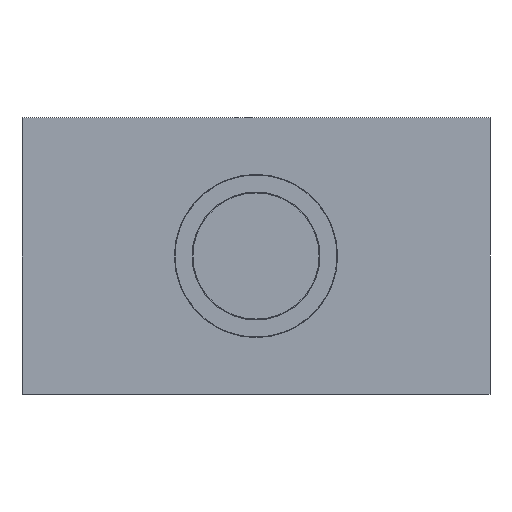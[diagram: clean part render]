
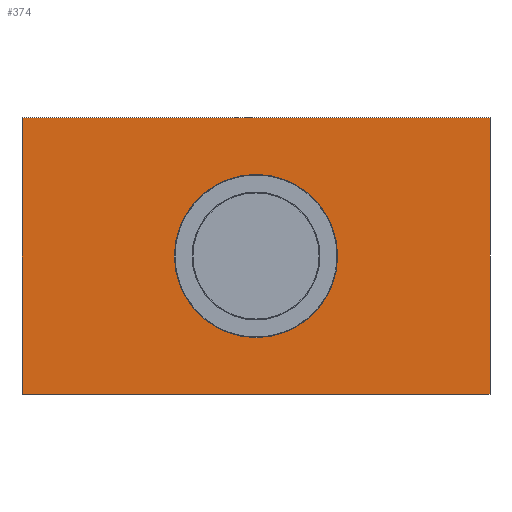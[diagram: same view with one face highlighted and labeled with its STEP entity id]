
A CAD part, front view. The second image highlights one B-rep face of the part: STEP entity #374.
In plain terms, the highlighted free-form (B-spline) face has degree [1, 1] with [2, 2] control points.
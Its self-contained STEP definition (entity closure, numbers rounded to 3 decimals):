
#374=ADVANCED_FACE('',(#952,#953),#954,.T.);
#668=VERTEX_POINT('',#1250);
#672=VERTEX_POINT('',#1254);
#676=EDGE_CURVE('',#672,#668,#1258,.T.);
#678=EDGE_CURVE('',#668,#672,#1260,.T.);
#952=FACE_OUTER_BOUND('',#1904,.T.);
#953=FACE_BOUND('',#1905,.T.);
#954=B_SPLINE_SURFACE_WITH_KNOTS('',1,1,((#1906,#1907),(#1908,#1909)),.UNSPECIFIED.,.F.,.F.,.F.,(2,2),(2,2),(0.002,0.998),(0.004,0.996),.UNSPECIFIED.);
#1250=CARTESIAN_POINT('',(38.35,-1.,0.));
#1254=CARTESIAN_POINT('',(-38.35,-1.,0.));
#1258=CIRCLE('',#2399,38.35);
#1260=CIRCLE('',#2402,38.35);
#1904=EDGE_LOOP('',(#2836,#2837,#2838,#2839));
#1905=EDGE_LOOP('',(#2840,#2841));
#1906=CARTESIAN_POINT('',(-110.002,-1.,-65.001));
#1907=CARTESIAN_POINT('',(-110.002,-1.,65.001));
#1908=CARTESIAN_POINT('',(110.002,-1.,-65.001));
#1909=CARTESIAN_POINT('',(110.002,-1.,65.001));
#2399=AXIS2_PLACEMENT_3D('',#2952,#2953,#2954);
#2402=AXIS2_PLACEMENT_3D('',#2955,#2956,#2957);
#2836=ORIENTED_EDGE('',*,*,#3060,.T.);
#2837=ORIENTED_EDGE('',*,*,#3063,.F.);
#2838=ORIENTED_EDGE('',*,*,#3065,.T.);
#2839=ORIENTED_EDGE('',*,*,#3056,.F.);
#2840=ORIENTED_EDGE('',*,*,#678,.F.);
#2841=ORIENTED_EDGE('',*,*,#676,.F.);
#2952=CARTESIAN_POINT('',(0.,-1.,0.));
#2953=DIRECTION('',(0.,-1.0,0.));
#2954=DIRECTION('',(-1.0,0.,0.));
#2955=CARTESIAN_POINT('',(0.,-1.,0.));
#2956=DIRECTION('',(0.,-1.0,0.));
#2957=DIRECTION('',(1.0,0.,0.));
#3056=EDGE_CURVE('',#3121,#3123,#3124,.T.);
#3060=EDGE_CURVE('',#3121,#3127,#3129,.T.);
#3063=EDGE_CURVE('',#3131,#3127,#3133,.T.);
#3065=EDGE_CURVE('',#3131,#3123,#3135,.T.);
#3121=VERTEX_POINT('',#3191);
#3123=VERTEX_POINT('',#3194);
#3124=LINE('',#3195,#3196);
#3127=VERTEX_POINT('',#3200);
#3129=LINE('',#3203,#3204);
#3131=VERTEX_POINT('',#3206);
#3133=LINE('',#3209,#3210);
#3135=LINE('',#3212,#3213);
#3191=CARTESIAN_POINT('',(110.,-1.,65.));
#3194=CARTESIAN_POINT('',(110.,-1.,-65.));
#3195=CARTESIAN_POINT('',(110.,-1.,65.));
#3196=VECTOR('',#3240,1.0);
#3200=CARTESIAN_POINT('',(-110.,-1.,65.));
#3203=CARTESIAN_POINT('',(110.,-1.,65.));
#3204=VECTOR('',#3243,1.0);
#3206=CARTESIAN_POINT('',(-110.,-1.,-65.));
#3209=CARTESIAN_POINT('',(-110.,-1.,-65.));
#3210=VECTOR('',#3245,1.0);
#3212=CARTESIAN_POINT('',(-110.,-1.,-65.));
#3213=VECTOR('',#3246,1.0);
#3240=DIRECTION('',(0.,0.0,-1.0));
#3243=DIRECTION('',(-1.0,0.,0.));
#3245=DIRECTION('',(0.,0.0,1.0));
#3246=DIRECTION('',(1.0,0.,0.));
